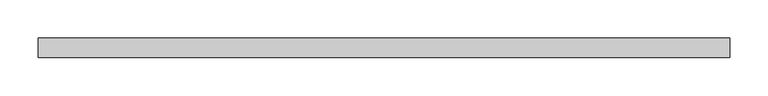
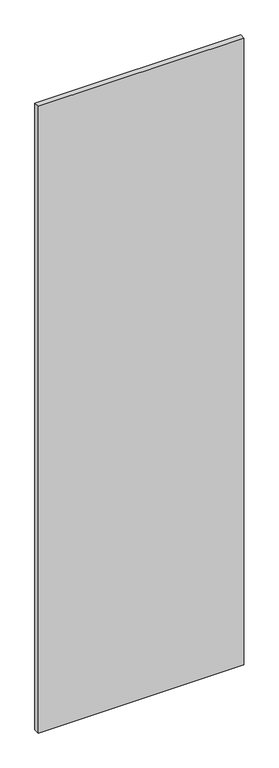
"""IFC4 building model written with IfcOpenShell, lengths in millimetres: plate geometry, Системная панель : ADSK_Cтеклопакет_25."""

from ifc_helpers import new_model, si_unit, origin, origin_with_axes, place, context, project, spatial, polyline, outline, extrude, source, transform, mapped, element, save


def plate_925b3bca(model_context):
    return source(origin(), model_context, "Body", "SweptSolid", [
        extrude(outline(polyline([(450.0, -12.5), (-450.0, -12.5), (-450.0, 12.5), (450.0, 12.5), (450.0, -12.5)])), origin_with_axes(), (0.0, 0.0, 1.0), 2900.0),
    ])


if __name__ == "__main__":
    model = new_model("IFC4")
    model_context = context("Model", 3, world=origin())
    ifc_project = project(units=[si_unit("LENGTHUNIT", "METRE", prefix="MILLI")], contexts=[model_context])
    site = spatial("IfcSite", under=ifc_project)
    building = spatial("IfcBuilding", under=site)
    placement = place(None, origin())
    plate_shape = plate_925b3bca(model_context)
    element("IfcPlate", 1, ObjectType="Системная панель : ADSK_Cтеклопакет_25", at=placement, inside=building, context=model_context, shape_type="MappedRepresentation", body=[
        mapped(plate_shape, transform((0.0, 0.0, 0.0), x_axis=(1.0, 0.0, 0.0), y_axis=(0.0, 1.0, 0.0), z_axis=(0.0, 0.0, 1.0))),
    ])
    save(model, "model.ifc")
